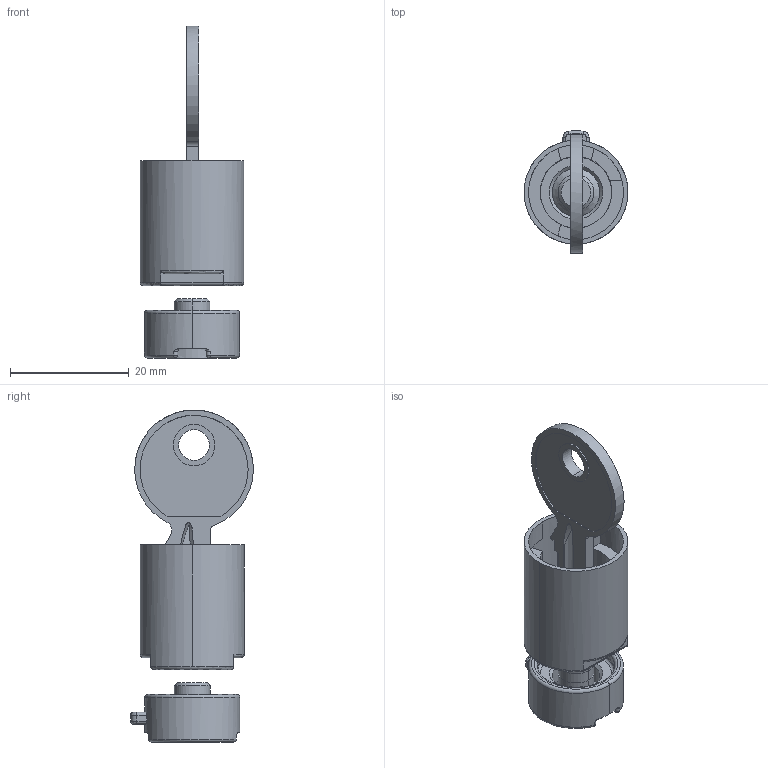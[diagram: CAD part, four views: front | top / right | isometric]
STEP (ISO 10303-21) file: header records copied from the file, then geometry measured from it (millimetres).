
FILE_DESCRIPTION((''),'2;1');
FILE_NAME('LVS07941_3D-SIMPLIFIED_ASM','2021-05-05T15:10:00',('USER'),('Schneider-Electric'),'CREO PARAMETRIC BY PTC INC, 2018300','CREO PARAMETRIC BY PTC INC, 2018300','');
FILE_SCHEMA(('CONFIG_CONTROL_DESIGN'));
Length unit declared in the file: millimetre
Products named in the file (6): LVS07941; LVS07941_1; LVS07941_2; LVS07941_ASM; ASM0001_ASM_1_ASM; LVS07941_3D-SIMPLIFIED_ASM
Assembly tree (5 placements, depth 4):
  LVS07941_3D-SIMPLIFIED_ASM
    ASM0001_ASM_1_ASM
      LVS07941_ASM
        LVS07941
        LVS07941_1
        LVS07941_2
Bounding box: 17.5 x 20.69 x 55.9 mm (x, y, z)
Volume: 4149.4 mm3; surface area: 4616.8 mm2
Topology: 3 solids, 3 shells, 176 faces, 489 edges, 324 vertices
Faces by surface type: plane 71, cylinder 54, torus 28, bspline 9, cone 6, sphere 4, extrusion 4
Entity records: 6491 total; most frequent: CARTESIAN_POINT 1740, DIRECTION 1017, ORIENTED_EDGE 970, EDGE_CURVE 485, AXIS2_PLACEMENT_3D 401, VERTEX_POINT 324, CIRCLE 223, VECTOR 215
